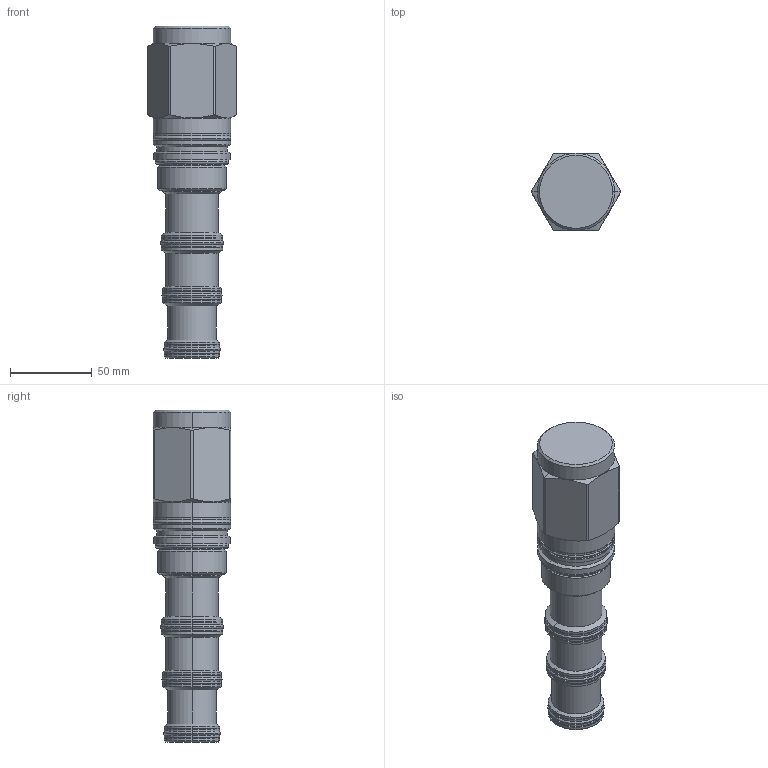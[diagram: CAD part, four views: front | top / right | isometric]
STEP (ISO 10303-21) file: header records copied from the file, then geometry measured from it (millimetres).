
FILE_DESCRIPTION((''),'2;1');
FILE_NAME('PD42-S50','2014-04-10T',('mg1'),(''),'PRO/ENGINEER BY PARAMETRIC TECHNOLOGY CORPORATION, 2013230','PRO/ENGINEER BY PARAMETRIC TECHNOLOGY CORPORATION, 2013230','');
FILE_SCHEMA(('CONFIG_CONTROL_DESIGN'));
Length unit declared in the file: millimetre
Products named in the file (1): PD42-S50
Bounding box: 54.23 x 47.75 x 203.31 mm (x, y, z)
Volume: 264348.4 mm3; surface area: 34582.8 mm2
Topology: 1 solids, 1 shells, 174 faces, 360 edges, 212 vertices
Faces by surface type: cylinder 74, torus 36, plane 32, cone 28, revolution 4
Entity records: 4768 total; most frequent: DIRECTION 924, CARTESIAN_POINT 880, ORIENTED_EDGE 720, AXIS2_PLACEMENT_3D 406, EDGE_CURVE 360, CIRCLE 236, VERTEX_POINT 212, EDGE_LOOP 198
